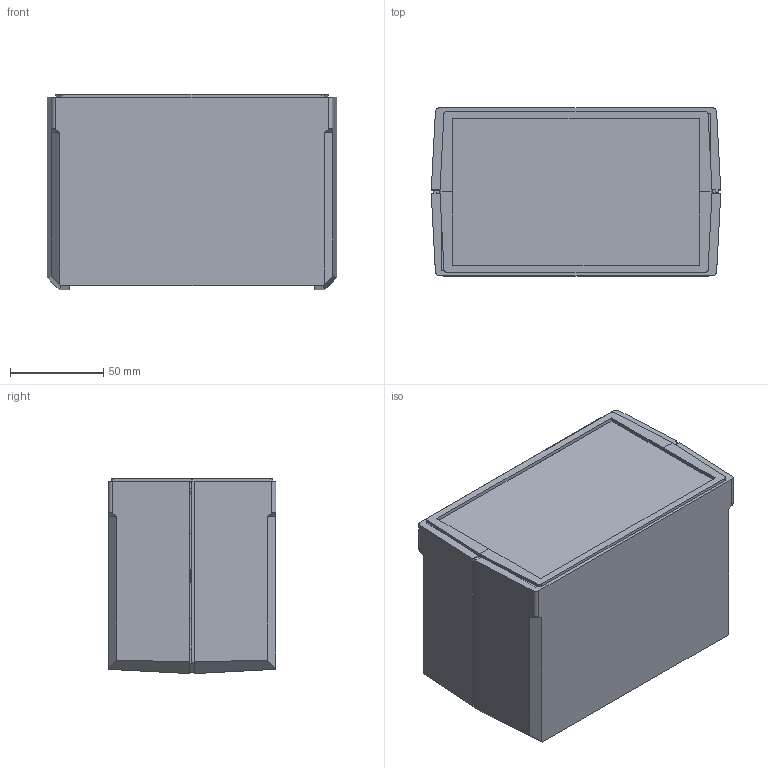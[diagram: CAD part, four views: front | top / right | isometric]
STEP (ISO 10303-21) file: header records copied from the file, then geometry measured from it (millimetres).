
FILE_DESCRIPTION (( 'STEP AP214' ), '1' );
FILE_NAME ('WTS137-TW.STEP', '2020-04-29T23:00:06', ( 'Rudy' ), ( '' ), 'SwSTEP 2.0', 'SolidWorks 2014', '' );
FILE_SCHEMA (( 'AUTOMOTIVE_DESIGN' ));
Length unit declared in the file: inch
Products named in the file (3): WTS 137 Endplate; WTS-deep; WTS137-TW
Assembly tree (4 placements, depth 2):
  WTS137-TW
    WTS-deep  x2
    WTS 137 Endplate  x2
Bounding box: 155.5 x 90.25 x 104.9 mm (x, y, z)
Volume: 203506.7 mm3; surface area: 173969.6 mm2
Topology: 4 solids, 4 shells, 688 faces, 1958 edges, 1294 vertices
Faces by surface type: plane 632, cylinder 56
Entity records: 11123 total; most frequent: CARTESIAN_POINT 2013, ORIENTED_EDGE 1958, DIRECTION 1717, EDGE_CURVE 979, VECTOR 919, LINE 919, VERTEX_POINT 647, AXIS2_PLACEMENT_3D 399
